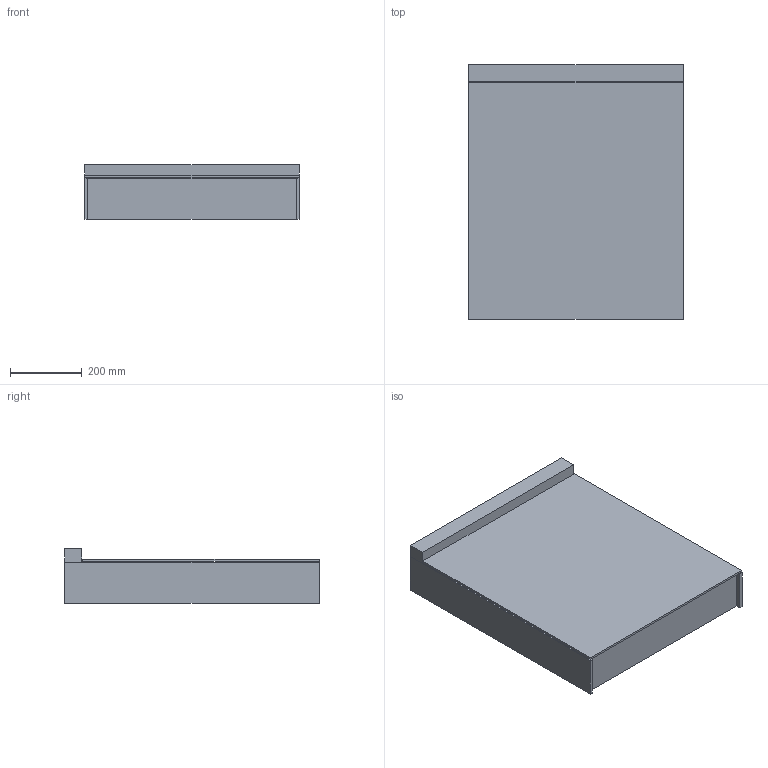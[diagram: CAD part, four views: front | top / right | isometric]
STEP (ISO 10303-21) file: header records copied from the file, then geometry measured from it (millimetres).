
FILE_DESCRIPTION (( 'STEP AP203' ), '1' );
FILE_NAME ('AP_1-060.STEP', '2025-06-26T12:16:05', ( '' ), ( '' ), 'SwSTEP 2.0', 'SolidWorks 2022', '' );
FILE_SCHEMA (( 'CONFIG_CONTROL_DESIGN' ));
Length unit declared in the file: millimetre
Products named in the file (1): AP_1-060
Bounding box: 600 x 712 x 153 mm (x, y, z)
Volume: 52033862.4 mm3; surface area: 2093964.4 mm2
Topology: 3 solids, 3 shells, 32 faces, 78 edges, 52 vertices
Faces by surface type: plane 32
Entity records: 995 total; most frequent: CARTESIAN_POINT 163, ORIENTED_EDGE 156, DIRECTION 144, EDGE_CURVE 78, VECTOR 78, LINE 78, VERTEX_POINT 52, AXIS2_PLACEMENT_3D 33
